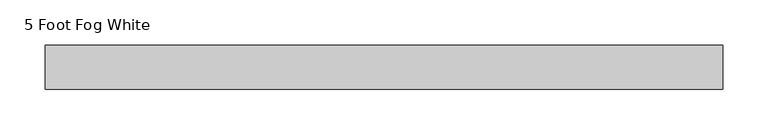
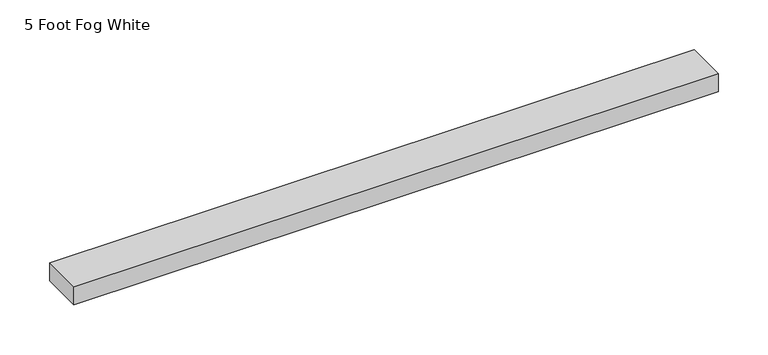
"""IFC4 building model written with IfcOpenShell, lengths in millimetres: proxy geometry, Raceway-2400_Series-Wiremold-Steel : 5 Foot Fog White."""

from ifc_helpers import new_model, si_unit, origin, origin_with_axes, place, context, project, spatial, polyline, outline, extrude, source, transform, mapped, element, save


def proxy_5_foot_fog_white_42f23179(model_context):
    return source(origin(), model_context, "Body", "SweptSolid", [
        extrude(outline(polyline([(746.125, 24.2062), (746.125, -24.2062), (0.0, -24.2062), (0.0, 24.2062), (746.125, 24.2062)])), origin_with_axes(), (0.0, 0.0, 1.0), 22.225),
    ])


if __name__ == "__main__":
    model = new_model("IFC4")
    model_context = context("Model", 3, world=origin())
    ifc_project = project(units=[si_unit("LENGTHUNIT", "METRE", prefix="MILLI")], contexts=[model_context])
    site = spatial("IfcSite", under=ifc_project)
    building = spatial("IfcBuilding", under=site)
    placement = place(None, origin())
    proxy_5_foot_fog_white_shape = proxy_5_foot_fog_white_42f23179(model_context)
    element("IfcBuildingElementProxy", 1, Name="Raceway-2400_Series-Wiremold-Steel : 5 Foot Fog White", ObjectType="Raceway-2400_Series-Wiremold-Steel : 5 Foot Fog White", at=placement, inside=building, context=model_context, shape_type="MappedRepresentation", body=[
        mapped(proxy_5_foot_fog_white_shape, transform((0.0, 0.0, 0.0), x_axis=(1.0, 0.0, 0.0), y_axis=(0.0, 1.0, 0.0), z_axis=(0.0, 0.0, 1.0))),
    ])
    save(model, "model.ifc")
